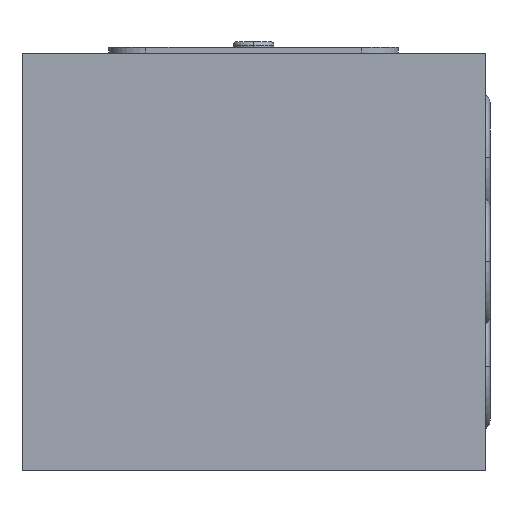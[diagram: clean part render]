
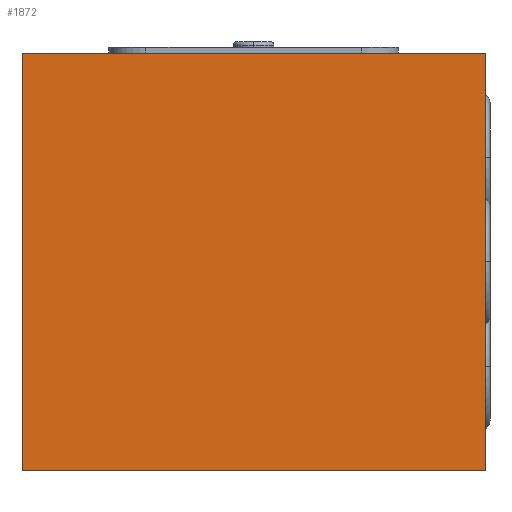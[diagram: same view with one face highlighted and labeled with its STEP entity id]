
A CAD part, left-side view. The second image highlights one B-rep face of the part: STEP entity #1872.
In plain terms, the highlighted planar face has unit normal (-1, 0, 0).
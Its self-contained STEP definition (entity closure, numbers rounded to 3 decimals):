
#52=DIRECTION('',(0.,0.,-1.));
#53=VECTOR('',#52,36.);
#54=CARTESIAN_POINT('',(0.,0.,0.));
#55=LINE('',#54,#53);
#59=DIRECTION('',(0.,1.,0.));
#60=VECTOR('',#59,40.);
#61=CARTESIAN_POINT('',(0.,0.,-36.));
#62=LINE('',#61,#60);
#66=DIRECTION('',(0.,0.,1.));
#67=VECTOR('',#66,36.);
#68=CARTESIAN_POINT('',(0.,40.,-36.));
#69=LINE('',#68,#67);
#73=DIRECTION('',(0.,-1.,0.));
#74=VECTOR('',#73,40.);
#75=CARTESIAN_POINT('',(0.,40.,0.));
#76=LINE('',#75,#74);
#1644=CARTESIAN_POINT('',(0.,0.,0.));
#1645=CARTESIAN_POINT('',(0.,0.,-36.));
#1646=VERTEX_POINT('',#1644);
#1647=VERTEX_POINT('',#1645);
#1648=CARTESIAN_POINT('',(0.,40.,-36.));
#1649=VERTEX_POINT('',#1648);
#1650=CARTESIAN_POINT('',(0.,40.,0.));
#1651=VERTEX_POINT('',#1650);
#1857=CARTESIAN_POINT('',(0.,0.,0.));
#1858=DIRECTION('',(1.,0.,0.));
#1859=DIRECTION('',(0.,0.,-1.));
#1860=AXIS2_PLACEMENT_3D('',#1857,#1858,#1859);
#1861=PLANE('',#1860);
#1863=ORIENTED_EDGE('',*,*,#1862,.T.);
#1865=ORIENTED_EDGE('',*,*,#1864,.T.);
#1867=ORIENTED_EDGE('',*,*,#1866,.T.);
#1869=ORIENTED_EDGE('',*,*,#1868,.T.);
#1870=EDGE_LOOP('',(#1863,#1865,#1867,#1869));
#1871=FACE_OUTER_BOUND('',#1870,.F.);
#1862=EDGE_CURVE('',#1646,#1647,#55,.T.);
#1864=EDGE_CURVE('',#1647,#1649,#62,.T.);
#1866=EDGE_CURVE('',#1649,#1651,#69,.T.);
#1868=EDGE_CURVE('',#1651,#1646,#76,.T.);
#1872=ADVANCED_FACE('',(#1871),#1861,.F.);
